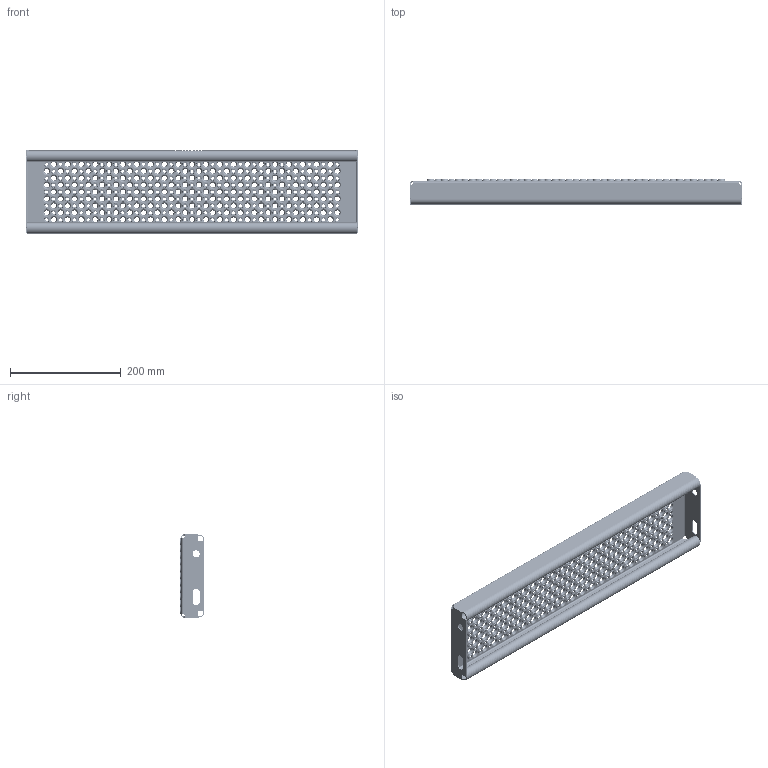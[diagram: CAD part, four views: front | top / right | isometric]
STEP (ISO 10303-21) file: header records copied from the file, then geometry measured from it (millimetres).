
FILE_DESCRIPTION (( 'STEP AP214' ), '1' );
FILE_NAME ('Achil_trin_150x600x45x2_mm.STEP', '2021-03-15T08:42:43', ( '' ), ( '' ), 'SwSTEP 2.0', 'SolidWorks 2021', '' );
FILE_SCHEMA (( 'AUTOMOTIVE_DESIGN' ));
Length unit declared in the file: millimetre
Products named in the file (1): Achil_trin_150x600x45x2_mm
Bounding box: 600 x 45 x 150 mm (x, y, z)
Volume: 386480.4 mm3; surface area: 413931.1 mm2
Topology: 1 solids, 1 shells, 4812 faces, 12498 edges, 7688 vertices
Faces by surface type: cone 2838, torus 1892, plane 38, cylinder 36, bspline 8
Entity records: 153328 total; most frequent: DIRECTION 31592, CARTESIAN_POINT 25591, ORIENTED_EDGE 24996, AXIS2_PLACEMENT_3D 14321, EDGE_CURVE 12498, CIRCLE 9516, VERTEX_POINT 7688, EDGE_LOOP 5766
